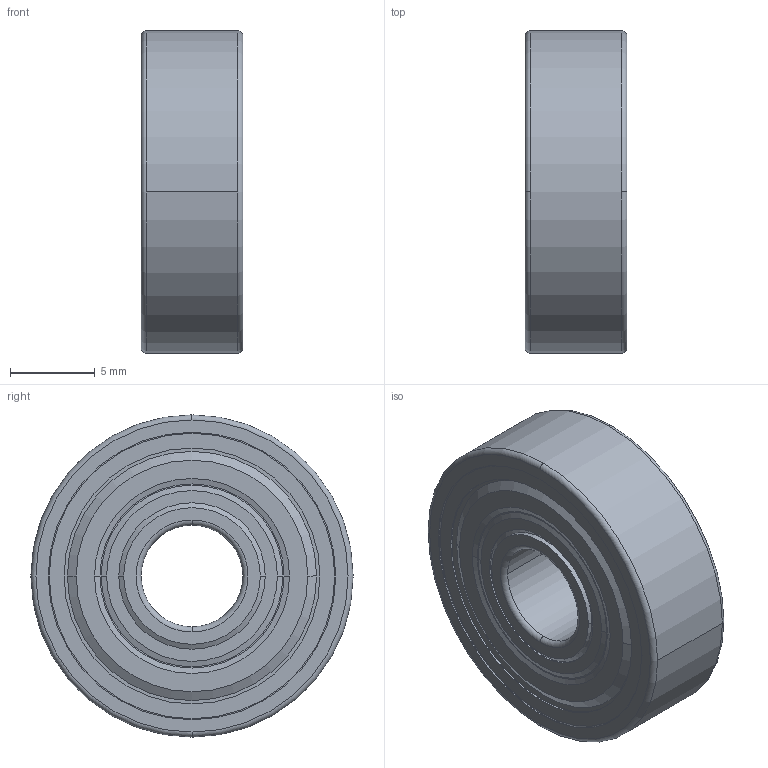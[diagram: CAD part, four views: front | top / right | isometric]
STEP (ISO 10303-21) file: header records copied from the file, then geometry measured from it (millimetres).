
FILE_DESCRIPTION(('FreeCAD Model'),'2;1');
FILE_NAME('Open CASCADE Shape Model','2021-04-30T14:19:55',(''),(''), 'Open CASCADE STEP processor 7.5','FreeCAD','Unknown');
FILE_SCHEMA(('AUTOMOTIVE_DESIGN { 1 0 10303 214 1 1 1 1 }'));
Length unit declared in the file: millimetre
Products named in the file (6): snr_626zz_0_006; snr_626zz_0_1; snr_626zz_0_002; snr_626zz_0_003; snr_626zz_0_004; snr_626zz_0_005
Assembly tree (5 placements, depth 2):
  snr_626zz_0_006
    snr_626zz_0_1
    snr_626zz_0_002
    snr_626zz_0_003
    snr_626zz_0_004
    snr_626zz_0_005
Bounding box: 6 x 19 x 19 mm (x, y, z)
Volume: 1288 mm3; surface area: 2785.3 mm2
Topology: 5 solids, 5 shells, 118 faces, 264 edges, 172 vertices
Faces by surface type: torus 36, cone 32, plane 26, cylinder 24
Entity records: 7170 total; most frequent: CARTESIAN_POINT 1436, DIRECTION 1190, ORIENTED_EDGE 528, PCURVE 528, DEFINITIONAL_REPRESENTATION 528, LINE 468, VECTOR 468, AXIS2_PLACEMENT_3D 332
